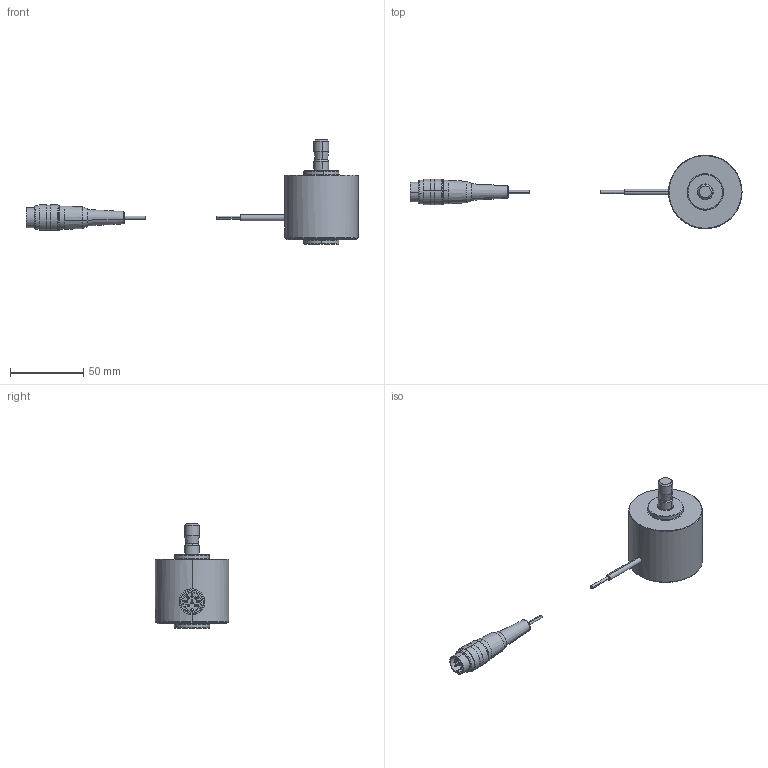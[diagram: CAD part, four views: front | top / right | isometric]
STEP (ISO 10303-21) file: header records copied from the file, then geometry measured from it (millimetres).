
FILE_DESCRIPTION(('STEP AP203'),'1');
FILE_NAME('C:/TPO v2/SharedFS/Outgoing/burster_8552-6010-v1000_evxu8pbgqlwdmno89ck7rmkgt.stp','2013-08-27T17:58:08',('TraceParts'),('TraceParts S.A.'),'XStep 1.0',' ',' ');
FILE_SCHEMA(('CONFIG_CONTROL_DESIGN'));
Length unit declared in the file: millimetre
Products named in the file (2): 1; 2
Bounding box: 225.89 x 50 x 71 mm (x, y, z)
Volume: 97392.6 mm3; surface area: 29159 mm2
Topology: 2 solids, 5 shells, 350 faces, 933 edges, 632 vertices
Faces by surface type: plane 114, cylinder 84, bspline 84, cone 52, torus 14, sphere 2
Entity records: 15080 total; most frequent: CARTESIAN_POINT 6586, ORIENTED_EDGE 1866, DIRECTION 1563, EDGE_CURVE 933, VERTEX_POINT 632, AXIS2_PLACEMENT_3D 579, LINE 405, VECTOR 405
